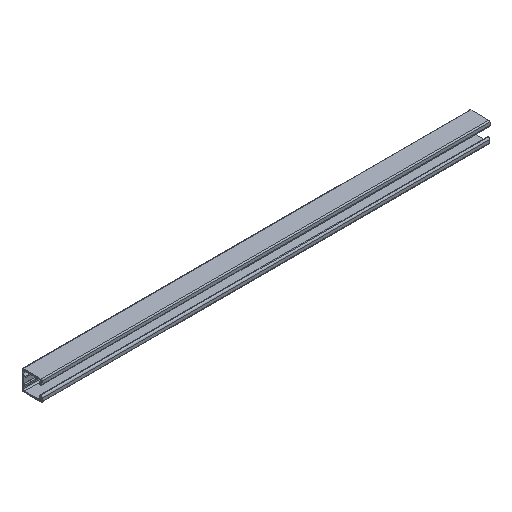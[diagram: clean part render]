
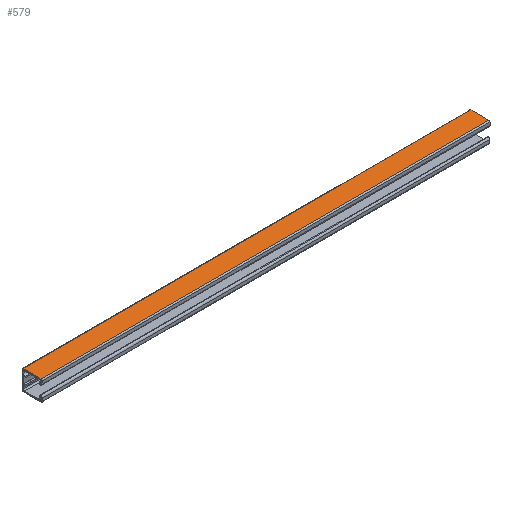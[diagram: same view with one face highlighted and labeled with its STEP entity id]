
A CAD part, isometric view. The second image highlights one B-rep face of the part: STEP entity #579.
In plain terms, the highlighted planar face has unit normal (0, 0, 1).
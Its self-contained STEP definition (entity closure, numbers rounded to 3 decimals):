
#39 = ORIENTED_EDGE ( 'NONE', *, *, #782, .F. ) ;
#60 = ORIENTED_EDGE ( 'NONE', *, *, #1687, .T. ) ;
#130 = VERTEX_POINT ( 'NONE', #368 ) ;
#178 = LINE ( 'NONE', #1586, #1756 ) ;
#222 = ORIENTED_EDGE ( 'NONE', *, *, #314, .T. ) ;
#286 = AXIS2_PLACEMENT_3D ( 'NONE', #973, #783, #964 ) ;
#314 = EDGE_CURVE ( 'NONE', #130, #608, #1376, .T. ) ;
#368 = CARTESIAN_POINT ( 'NONE',  ( 0., 20.066, 22.5 ) ) ;
#387 = CARTESIAN_POINT ( 'NONE',  ( 0., 20.066, 22.5 ) ) ;
#449 = PLANE ( 'NONE',  #286 ) ;
#485 = VERTEX_POINT ( 'NONE', #1311 ) ;
#579 = ADVANCED_FACE ( 'NONE', ( #638 ), #449, .F. ) ;
#590 = VECTOR ( 'NONE', #1498, 1000. ) ;
#604 = DIRECTION ( 'NONE',  ( -1., 0., 0. ) ) ;
#608 = VERTEX_POINT ( 'NONE', #1528 ) ;
#638 = FACE_OUTER_BOUND ( 'NONE', #1569, .T. ) ;
#711 = VECTOR ( 'NONE', #1430, 1000. ) ;
#782 = EDGE_CURVE ( 'NONE', #485, #1444, #1165, .T. ) ;
#783 = DIRECTION ( 'NONE',  ( 0., 0., -1. ) ) ;
#880 = CARTESIAN_POINT ( 'NONE',  ( 1000., -19.934, 22.5 ) ) ;
#896 = EDGE_CURVE ( 'NONE', #1444, #608, #1460, .T. ) ;
#964 = DIRECTION ( 'NONE',  ( 0., 1., 0. ) ) ;
#973 = CARTESIAN_POINT ( 'NONE',  ( 1000., 20.066, 22.5 ) ) ;
#1114 = CARTESIAN_POINT ( 'NONE',  ( 1000., -19.934, 22.5 ) ) ;
#1165 = LINE ( 'NONE', #1605, #1738 ) ;
#1311 = CARTESIAN_POINT ( 'NONE',  ( 1000., 20.066, 22.5 ) ) ;
#1376 = LINE ( 'NONE', #387, #590 ) ;
#1430 = DIRECTION ( 'NONE',  ( -1., 0., 0. ) ) ;
#1444 = VERTEX_POINT ( 'NONE', #1114 ) ;
#1460 = LINE ( 'NONE', #880, #711 ) ;
#1498 = DIRECTION ( 'NONE',  ( 0., -1., 0. ) ) ;
#1528 = CARTESIAN_POINT ( 'NONE',  ( 0., -19.934, 22.5 ) ) ;
#1569 = EDGE_LOOP ( 'NONE', ( #222, #1787, #39, #60 ) ) ;
#1586 = CARTESIAN_POINT ( 'NONE',  ( 1000., 20.066, 22.5 ) ) ;
#1605 = CARTESIAN_POINT ( 'NONE',  ( 1000., 20.066, 22.5 ) ) ;
#1687 = EDGE_CURVE ( 'NONE', #485, #130, #178, .T. ) ;
#1726 = DIRECTION ( 'NONE',  ( 0., -1., 0. ) ) ;
#1738 = VECTOR ( 'NONE', #1726, 1000. ) ;
#1756 = VECTOR ( 'NONE', #604, 1000. ) ;
#1787 = ORIENTED_EDGE ( 'NONE', *, *, #896, .F. ) ;
